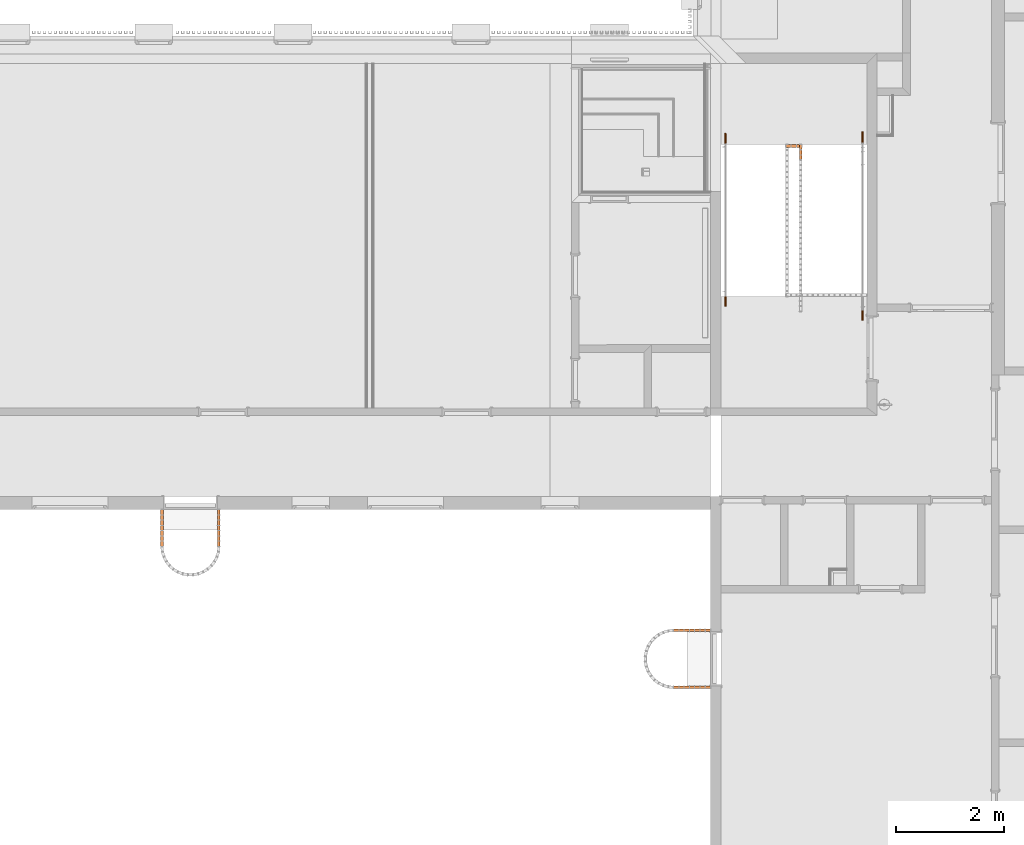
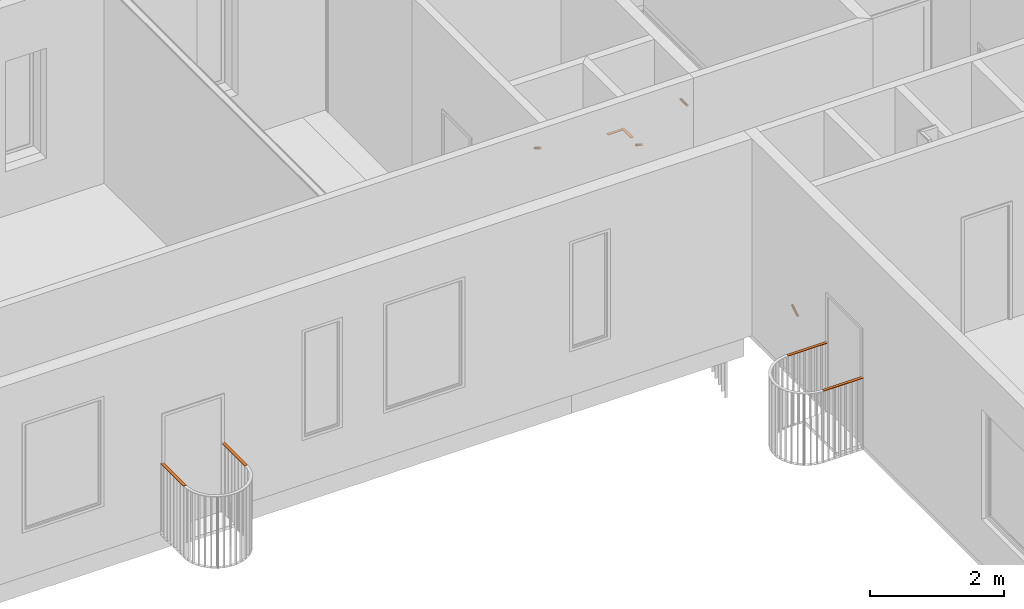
# One storey, part 98 of 100: 10 proxies, 8 elements without a shape of their own.
"""IFC2X3 building model written with IfcOpenShell, lengths in millimetres."""

import ifcopenshell
import ifcopenshell.guid

model = None  # the IFC model being written
_history = None  # IfcOwnerHistory: only IFC2X3 demands one
_inside = {}  # id of a spatial element -> (the spatial element, [elements in it])
_under = {}  # id of a project, library or spatial element -> (it, [spatial elements below it])
_declared = {}  # id of a project -> (the project, [libraries it declares])
_typed = {}  # id of a type object -> (the type object, [elements of that type])
_made_of = {}  # id of a material, layer set ... -> (it, [elements and type objects made of it])


def new_model(schema):
    """Start an empty IFC model of exactly this schema.

    Asked for "IFC4X3", IfcOpenShell would pick the latest addendum, in which some entities
    have other attributes; the version numbers below select the first issue.
    IFC2X3 requires an IfcOwnerHistory on every rooted entity: one is made here for all.
    """
    global model, _history
    if schema == "IFC4X3":
        model = ifcopenshell.file(schema_version=(4, 3, 0, 0))
    else:
        model = ifcopenshell.file(schema=schema)
    _inside.clear()
    _under.clear()
    _declared.clear()
    _typed.clear()
    _made_of.clear()
    _history = None
    if model.schema == "IFC2X3":
        org = make("IfcOrganization", Name="unknown")
        user = make(
            "IfcPersonAndOrganization",
            ThePerson=make("IfcPerson", FamilyName="unknown"),
            TheOrganization=org,
        )
        app = make(
            "IfcApplication",
            ApplicationDeveloper=org,
            Version="unknown",
            ApplicationFullName="unknown",
            ApplicationIdentifier="unknown",
        )
        _history = make(
            "IfcOwnerHistory",
            OwningUser=user,
            OwningApplication=app,
            ChangeAction="ADDED",
            CreationDate=0,
        )
    return model


def make(cls, **values):
    """One entity of the class cls with the attributes given. An attribute that is None is left unset."""
    return model.create_entity(
        cls, **{name: value for name, value in values.items() if value is not None}
    )


def entity(cls, *values):
    """Any entity or typed value of the class cls, its attributes in the order of the schema. None: left unset."""
    e = model.create_entity(cls)
    for i, value in enumerate(values):
        if value is not None:
            e[i] = value
    return e


def rooted(cls, **values):
    """An entity with a GlobalId (a new one), such as an element, a storey or a relation."""
    return make(cls, GlobalId=ifcopenshell.guid.new(), OwnerHistory=_history, **values)


def si_unit(unit_type, name, prefix=None):
    """IfcSIUnit, for example si_unit("LENGTHUNIT", "METRE", prefix="MILLI")."""
    return make("IfcSIUnit", UnitType=unit_type, Prefix=prefix, Name=name)


def converted_unit(unit_type, name, factor, base, dimensions=None, offset=None):
    """IfcConversionBasedUnit, such as the inch: factor (a typed value) times the base unit."""
    return make(
        "IfcConversionBasedUnit"
        if offset is None
        else "IfcConversionBasedUnitWithOffset",
        ConversionOffset=offset,
        Dimensions=None
        if dimensions is None
        else entity("IfcDimensionalExponents", *dimensions),
        UnitType=unit_type,
        Name=name,
        ConversionFactor=make(
            "IfcMeasureWithUnit", ValueComponent=factor, UnitComponent=base
        ),
    )


def derived_unit(unit_type, elements):
    """IfcDerivedUnit: a product of units, each with its exponent."""
    return make(
        "IfcDerivedUnit",
        Elements=[
            make("IfcDerivedUnitElement", Unit=unit, Exponent=power)
            for unit, power in elements
        ],
        UnitType=unit_type,
    )


def money_unit(currency):
    """IfcMonetaryUnit."""
    return make("IfcMonetaryUnit", Currency=currency)


def assignment(units):
    """IfcUnitAssignment: the units of a project."""
    return None if units is None else make("IfcUnitAssignment", Units=units)


def point(xyz):
    """IfcCartesianPoint."""
    return None if xyz is None else make("IfcCartesianPoint", Coordinates=xyz)


def direction(xyz):
    """IfcDirection."""
    return None if xyz is None else make("IfcDirection", DirectionRatios=xyz)


def frame(location, z_axis=None, x_axis=None):
    """IfcAxis2Placement3D, a coordinate frame: its origin and axes. An axis left out is left unset."""
    return make(
        "IfcAxis2Placement3D",
        Location=point(location),
        Axis=direction(z_axis),
        RefDirection=direction(x_axis),
    )


def origin_with_axes():
    """The frame at (0, 0, 0) with the z axis (0, 0, 1) and the x axis (1, 0, 0) written out."""
    return frame((0.0, 0.0, 0.0), z_axis=(0.0, 0.0, 1.0), x_axis=(1.0, 0.0, 0.0))


def place(relative_to, where):
    """IfcLocalPlacement: puts the frame where relative to a parent placement (None: the world)."""
    return make(
        "IfcLocalPlacement", PlacementRelTo=relative_to, RelativePlacement=where
    )


def context(
    kind, dimensions, precision=None, world=None, true_north=None, identifier=None
):
    """IfcGeometricRepresentationContext, for example the 3D "Model" context."""
    return make(
        "IfcGeometricRepresentationContext",
        ContextIdentifier=identifier,
        ContextType=kind,
        CoordinateSpaceDimension=dimensions,
        Precision=precision,
        WorldCoordinateSystem=world,
        TrueNorth=true_north,
    )


def subcontext(parent, identifier, kind, view, scale=None):
    """IfcGeometricRepresentationSubContext, for example "Body" below "Model"."""
    return make(
        "IfcGeometricRepresentationSubContext",
        ContextIdentifier=identifier,
        ContextType=kind,
        ParentContext=parent,
        TargetScale=scale,
        TargetView=view,
    )


def project(units=None, contexts=None):
    """IfcProject with its units and contexts."""
    return rooted(
        "IfcProject",
        Name="project",
        RepresentationContexts=contexts,
        UnitsInContext=assignment(units),
    )


def spatial(cls, under=None, at=None, **own):
    """A site, building, storey or space (cls), placed at a placement, below another one or the project."""
    s = rooted(cls, ObjectPlacement=at, **own)
    if under is not None:
        _under.setdefault(under.id(), (under, []))[1].append(s)
    return s


def faces_of(points, faces, orient=None, outer=None):
    """IfcFace entities. A face is a list of loops; a loop is a list of indices into points, from 0.

    orient and outer hold one flag for each loop. By default every Orientation is true, the
    first loop of a face is its IfcFaceOuterBound and the others are IfcFaceBound.
    """
    made = []
    for i, loops in enumerate(faces):
        bounds = []
        for j, loop in enumerate(loops):
            is_outer = j == 0 if outer is None else outer[i][j]
            bounds.append(
                make(
                    "IfcFaceOuterBound" if is_outer else "IfcFaceBound",
                    Bound=make("IfcPolyLoop", Polygon=[points[k] for k in loop]),
                    Orientation=True if orient is None else orient[i][j],
                )
            )
        made.append(make("IfcFace", Bounds=bounds))
    return made


def faceted_brep(points, faces, orient=None, outer=None, voids=None):
    """IfcFacetedBrep: a solid bounded by flat faces; with voids (closed shells), ...WithVoids."""
    shared = [point(p) for p in points]
    hull = make("IfcClosedShell", CfsFaces=faces_of(shared, faces, orient, outer))
    if voids is None:
        return make("IfcFacetedBrep", Outer=hull)
    return make(
        "IfcFacetedBrepWithVoids",
        Outer=hull,
        Voids=[
            make(cls, CfsFaces=faces_of(shared, fs, o, b)) for cls, fs, o, b in voids
        ],
    )


def shape(context_of_items, identifier, shape_type, items):
    """IfcShapeRepresentation: the items that make up one representation, for example the "Body"."""
    return make(
        "IfcShapeRepresentation",
        ContextOfItems=context_of_items,
        RepresentationIdentifier=identifier,
        RepresentationType=shape_type,
        Items=items,
    )


def material(Name=None, Category=None):
    """IfcMaterial."""
    return make("IfcMaterial", Name=Name, Category=Category)


def made_of(thing, what):
    """Note that an element or type object is made of a material, layer set ...; save() writes the relation."""
    if what is not None:
        _made_of.setdefault(what.id(), (what, []))[1].append(thing)
    return thing


def type_object(cls, material=None, **own):
    """A type object (cls), such as IfcWallType, which elements share."""
    return made_of(rooted(cls, **own), material)


def element(
    cls,
    number,
    at=None,
    inside=None,
    cuts=None,
    type_object=None,
    material=None,
    context=None,
    identifier="Body",
    shape_type=None,
    held_by="IfcProductDefinitionShape",
    body=None,
    shapes=None,
    **own,
):
    """One element of the class cls, such as IfcWall. Its Tag is "e" and its number.

    at: its placement. inside: the storey or other place that contains it. cuts: it is an
    opening in that element (IfcRelVoidsElement). A single representation is given by context,
    identifier, shape_type and body (its items); several are given by shapes. held_by: the class
    of the entity that holds the representations. save() writes the other relations.
    """
    e = rooted(cls, Tag="e%d" % number, ObjectPlacement=at, **own)
    if body is not None:
        shapes = [shape(context, identifier, shape_type, body)]
    if shapes is not None:
        e.Representation = make(held_by, Representations=shapes)
    if inside is not None:
        _inside.setdefault(inside.id(), (inside, []))[1].append(e)
    if cuts is not None:
        rooted(
            "IfcRelVoidsElement", RelatingBuildingElement=cuts, RelatedOpeningElement=e
        )
    if type_object is not None:
        _typed.setdefault(type_object.id(), (type_object, []))[1].append(e)
    return made_of(e, material)


def aggregate(whole, parts):
    """IfcRelAggregates: a whole, such as a stair, and the parts it consists of."""
    return rooted("IfcRelAggregates", RelatingObject=whole, RelatedObjects=parts)


def save(model, path):
    """Write the relations noted so far, then the file.

    IfcRelAggregates (storeys below a building ...), IfcRelContainedInSpatialStructure (elements
    in a storey), IfcRelDefinesByType, IfcRelAssociatesMaterial and IfcRelDeclares: one each for
    every whole, place, type object, material and project.
    """
    for whole, parts in _under.values():
        aggregate(whole, parts)
    for where, things in _inside.values():
        rooted(
            "IfcRelContainedInSpatialStructure",
            RelatedElements=things,
            RelatingStructure=where,
        )
    for kind, things in _typed.values():
        rooted("IfcRelDefinesByType", RelatedObjects=things, RelatingType=kind)
    for what, things in _made_of.values():
        rooted("IfcRelAssociatesMaterial", RelatedObjects=things, RelatingMaterial=what)
    for by, libraries in _declared.values():
        rooted("IfcRelDeclares", RelatingContext=by, RelatedDefinitions=libraries)
    model.write(path)


model = new_model("IFC2X3")

# Units and contexts
model_context = context("Model", 3, precision=0.01, world=origin_with_axes(), true_north=direction((0.0, 1.0)))
body_context = subcontext(model_context, "Body", "Model", "MODEL_VIEW")
ifc_project = project(units=[si_unit("LENGTHUNIT", "METRE", prefix="MILLI"), si_unit("AREAUNIT", "SQUARE_METRE"), si_unit("VOLUMEUNIT", "CUBIC_METRE"), converted_unit("PLANEANGLEUNIT", "DEGREE", entity("IfcPlaneAngleMeasure", 0.0174532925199), si_unit("PLANEANGLEUNIT", "RADIAN"), dimensions=[0, 0, 0, 0, 0, 0, 0]), si_unit("SOLIDANGLEUNIT", "STERADIAN"), money_unit("EUR"), converted_unit("TIMEUNIT", "Year", entity("IfcTimeMeasure", 31556926.0), si_unit("TIMEUNIT", "SECOND"), dimensions=[0, 0, 1, 0, 0, 0, 0]), si_unit("MASSUNIT", "GRAM", prefix="KILO"), si_unit("THERMODYNAMICTEMPERATUREUNIT", "DEGREE_CELSIUS"), si_unit("LUMINOUSINTENSITYUNIT", "LUMEN"), si_unit("ENERGYUNIT", "JOULE", prefix="MEGA"), derived_unit("THERMALCONDUCTANCEUNIT", [(si_unit("POWERUNIT", "WATT"), 1), (si_unit("LENGTHUNIT", "METRE"), -1), (si_unit("THERMODYNAMICTEMPERATUREUNIT", "KELVIN"), -1)]), derived_unit("SPECIFICHEATCAPACITYUNIT", [(si_unit("ENERGYUNIT", "JOULE"), 1), (si_unit("MASSUNIT", "GRAM", prefix="KILO"), -1), (si_unit("THERMODYNAMICTEMPERATUREUNIT", "KELVIN"), -1)]), derived_unit("MASSDENSITYUNIT", [(si_unit("MASSUNIT", "GRAM", prefix="KILO"), 1), (si_unit("VOLUMEUNIT", "CUBIC_METRE"), -1)])], contexts=[model_context])

# Site, building, storey
site_placement = place(None, origin_with_axes())
site = spatial("IfcSite", under=ifc_project, at=site_placement, Name="Politse- ja Piirivalveameti ning Päästeameti ühishoone", CompositionType="ELEMENT")
building_placement = place(site_placement, origin_with_axes())
building = spatial("IfcBuilding", under=site, at=building_placement, Name="Politse- ja Piirivalveameti ning Päästeameti ühishoone", CompositionType="ELEMENT")
storey_placement = place(building_placement, frame((0.0, 0.0, 3800.0), z_axis=(0.0, 0.0, 1.0), x_axis=(1.0, 0.0, 0.0)))
storey = spatial("IfcBuildingStorey", under=building, at=storey_placement, Name="Teine korrus", CompositionType="ELEMENT", Elevation=3800.0)

# Railing, proxy
railing_type = type_object("IfcRailingType", Name="Railing Type", PredefinedType="NOTDEFINED")
railing_1_placement = place(storey_placement, frame((49861.2823159, 14185.7710053, -60.5112710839), z_axis=(0.0, 0.0, 1.0), x_axis=(-1.0, 0.0, 0.0)))
railing_1 = element("IfcRailing", 1, at=railing_1_placement, inside=storey, type_object=railing_type, Name="PIIRE 11", PredefinedType="NOTDEFINED")
ifc_material = material(Name="Teras - Konstruktsioon")
building_element_proxy_type = type_object("IfcBuildingElementProxyType", Name="IfcBuildingElementProxy", PredefinedType="NOTDEFINED")
proxy_1_placement = place(railing_1_placement, frame((24.5074141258, 1766.93077231, 1273.07417596), z_axis=(0.0, 0.0, 1.0), x_axis=(-1.0, 0.0, 0.0)))
proxy_1 = element("IfcBuildingElementProxy", 2, at=proxy_1_placement, type_object=building_element_proxy_type, material=ifc_material, Name="Piirde Ülaosa - 001", context=body_context, shape_type="Brep", body=[
    faceted_brep([(-25.4925337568, 341.107435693, 26.9258240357), (-25.4925337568, 341.107435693, 16.9258240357), (-24.5074141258, -341.179628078, 16.9258240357), (-24.5074141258, -341.179628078, 26.9258240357), (24.5074141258, 341.179628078, 26.9258240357), (24.5074141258, 341.179628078, 16.9258240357), (25.4925337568, -341.107435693, 16.9258240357), (25.4925337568, -341.107435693, 26.9258240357)], [[[0, 1, 2, 3]], [[0, 4, 5, 1]], [[1, 5, 6, 2]], [[3, 2, 6, 7]], [[4, 0, 3, 7]], [[5, 4, 7, 6]]]),
])
aggregate(railing_1, [proxy_1])

railing_2_placement = place(storey_placement, frame((64283.6244846, 19499.9520832, -2100.0), z_axis=(0.0, 0.0, 1.0), x_axis=(0.0, 1.0, 0.0)))
railing_2 = element("IfcRailing", 3, at=railing_2_placement, inside=storey, type_object=railing_type, Name="TREPIPIIRE 3", PredefinedType="NOTDEFINED")
proxy_2_placement = place(railing_2_placement, frame((-25.0, 2773.06989919, 1173.07417596), z_axis=(0.0, 0.0, 1.0), x_axis=(0.0, -1.0, 0.0)))
proxy_2 = element("IfcBuildingElementProxy", 4, at=proxy_2_placement, type_object=building_element_proxy_type, material=ifc_material, Name="Piirde Ülaosa - 001", context=body_context, shape_type="Brep", body=[
    faceted_brep([(150.002673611, 25.0, 26.9258240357), (150.002673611, 25.0, 16.9258240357), (-150.002673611, 25.0, 16.9258240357), (-150.002673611, 25.0, 26.9258240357), (150.002673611, -25.0, 26.9258240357), (150.002673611, -25.0, 16.9258240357), (-150.002673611, -25.0, 16.9258240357), (-150.002673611, -25.0, 26.9258240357)], [[[0, 1, 2, 3]], [[0, 4, 5, 1]], [[1, 5, 6, 2]], [[3, 2, 6, 7]], [[4, 0, 3, 7]], [[5, 4, 7, 6]]]),
])
aggregate(railing_2, [proxy_2])

railing_3_placement = place(storey_placement, frame((61660.557259, 16622.7081554, -2100.0), z_axis=(0.0, 0.0, 1.0), x_axis=(-1.0, 0.0, 0.0)))
railing_3 = element("IfcRailing", 5, at=railing_3_placement, inside=storey, type_object=railing_type, Name="TREPIPIIRE 2", PredefinedType="NOTDEFINED")
proxy_3_placement = place(railing_3_placement, frame((25.0, -2737.24392778, 1173.07417596), z_axis=(0.0, 0.0, 1.0), x_axis=(-1.0, 0.0, 0.0)))
proxy_3 = element("IfcBuildingElementProxy", 6, at=proxy_3_placement, type_object=building_element_proxy_type, material=ifc_material, Name="Piirde Ülaosa - 001", context=body_context, shape_type="Brep", body=[
    faceted_brep([(25.0, -140.0, 26.9258240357), (25.0, -140.0, 16.9258240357), (25.0, 140.0, 16.9258240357), (25.0, 140.0, 26.9258240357), (-25.0, -140.0, 26.9258240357), (-25.0, -140.0, 16.9258240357), (-25.0, 140.0, 16.9258240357), (-25.0, 140.0, 26.9258240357)], [[[0, 1, 2, 3]], [[0, 4, 5, 1]], [[1, 5, 6, 2]], [[3, 2, 6, 7]], [[4, 0, 3, 7]], [[5, 4, 7, 6]]]),
])
aggregate(railing_3, [proxy_3])

# Railing, proxies
railing_4_placement = place(storey_placement, frame((62860.557259, 16419.9520832, -3627.27272727), z_axis=(0.0, 0.0, 1.0), x_axis=(1.0, 0.0, 0.0)))
railing_4 = element("IfcRailing", 7, at=railing_4_placement, inside=storey, type_object=railing_type, Name="PIIRE 5", PredefinedType="NOTDEFINED")
proxy_4_placement = place(railing_4_placement, origin_with_axes())
proxy_4 = element("IfcBuildingElementProxy", 8, at=proxy_4_placement, type_object=building_element_proxy_type, material=ifc_material, Name="HANDRAIL END - 001", context=body_context, shape_type="Brep", body=[
    faceted_brep([(-65.0, 10.500443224, 982.978228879), (-65.3038449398, 8.67706039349, 985.934028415), (-65.3038449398, -161.540650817, 880.929596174), (-65.0, -159.717267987, 877.973796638), (-65.3038449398, 12.3238260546, 980.022429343), (-66.2061475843, 14.0918063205, 977.15644028), (-67.6794919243, 15.7506648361, 974.467343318), (-69.6791111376, 17.2499980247, 972.036845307), (-72.1442478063, 18.5442494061, 969.9387957), (-75.0, 19.5940938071, 968.236942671), (-78.1595971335, 20.3676322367, 966.982996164), (-81.5270364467, 20.8413611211, 966.215056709), (-85.0, 21.0008864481, 965.956457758), (-88.4729635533, 20.8413611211, 966.215056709), (-91.8404028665, 20.3676322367, 966.982996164), (-95.0, 19.5940938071, 968.236942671), (-97.8557521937, 18.5442494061, 969.9387957), (-100.320888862, 17.2499980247, 972.036845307), (-102.320508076, 15.7506648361, 974.467343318), (-103.793852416, 14.0918063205, 977.15644028), (-104.69615506, 12.3238260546, 980.022429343), (-105.0, 10.500443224, 982.978228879), (-104.69615506, 8.67706039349, 985.934028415), (-103.793852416, 6.90908012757, 988.800017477), (-102.320508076, 5.25022161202, 991.489114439), (-100.320888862, 3.75088842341, 993.91961245), (-97.8557521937, 2.45663704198, 996.017662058), (-95.0, 1.40679264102, 997.719515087), (-91.8404028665, 0.633254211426, 998.973461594), (-88.4729635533, 0.159525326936, 999.741401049), (-85.0, 0.0, 1000.0), (-81.5270364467, 0.159525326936, 999.741401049), (-78.1595971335, 0.633254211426, 998.973461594), (-75.0, 1.40679264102, 997.719515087), (-72.1442478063, 2.45663704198, 996.017662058), (-69.6791111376, 3.75088842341, 993.91961245), (-67.6794919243, 5.25022161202, 991.489114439), (-66.2061475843, 6.90908012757, 988.800017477), (-66.2061475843, -163.308631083, 883.795585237), (-67.6794919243, -164.967489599, 886.484682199), (-69.6791111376, -166.466822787, 888.91518021), (-72.1442478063, -167.761074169, 891.013229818), (-75.0, -168.81091857, 892.715082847), (-78.1595971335, -169.584456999, 893.969029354), (-81.5270364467, -170.058185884, 894.736968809), (-85.0, -170.217711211, 894.99556776), (-88.4729635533, -170.058185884, 894.736968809), (-91.8404028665, -169.584456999, 893.969029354), (-95.0, -168.81091857, 892.715082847), (-97.8557521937, -167.761074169, 891.013229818), (-100.320888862, -166.466822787, 888.91518021), (-102.320508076, -164.967489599, 886.484682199), (-103.793852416, -163.308631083, 883.795585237), (-104.69615506, -161.540650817, 880.929596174), (-105.0, -159.717267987, 877.973796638), (-104.69615506, -157.893885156, 875.017997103), (-103.793852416, -156.12590489, 872.15200804), (-102.320508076, -154.467046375, 869.462911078), (-100.320888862, -152.967713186, 867.032413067), (-97.8557521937, -151.673461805, 864.934363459), (-95.0, -150.623617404, 863.23251043), (-91.8404028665, -149.850078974, 861.978563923), (-88.4729635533, -149.37635009, 861.210624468), (-85.0, -149.216824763, 860.952025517), (-81.5270364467, -149.37635009, 861.210624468), (-78.1595971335, -149.850078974, 861.978563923), (-75.0, -150.623617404, 863.23251043), (-72.1442478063, -151.673461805, 864.934363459), (-69.6791111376, -152.967713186, 867.032413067), (-67.6794919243, -154.467046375, 869.462911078), (-66.2061475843, -156.12590489, 872.15200804), (-65.3038449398, -157.893885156, 875.017997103)], [[[0, 1, 2, 3]], [[0, 4, 5, 6, 7, 8, 9, 10, 11, 12, 13, 14, 15, 16, 17, 18, 19, 20, 21, 22, 23, 24, 25, 26, 27, 28, 29, 30, 31, 32, 33, 34, 35, 36, 37, 1]], [[1, 37, 38, 2]], [[3, 2, 38, 39, 40, 41, 42, 43, 44, 45, 46, 47, 48, 49, 50, 51, 52, 53, 54, 55, 56, 57, 58, 59, 60, 61, 62, 63, 64, 65, 66, 67, 68, 69, 70, 71]], [[4, 0, 3, 71]], [[5, 4, 71, 70]], [[6, 5, 70, 69]], [[7, 6, 69, 68]], [[8, 7, 68, 67]], [[9, 8, 67, 66]], [[10, 9, 66, 65]], [[11, 10, 65, 64]], [[12, 11, 64, 63]], [[13, 12, 63, 62]], [[14, 13, 62, 61]], [[15, 14, 61, 60]], [[16, 15, 60, 59]], [[17, 16, 59, 58]], [[18, 17, 58, 57]], [[19, 18, 57, 56]], [[20, 19, 56, 55]], [[21, 20, 55, 54]], [[22, 21, 54, 53]], [[23, 22, 53, 52]], [[24, 23, 52, 51]], [[25, 24, 51, 50]], [[26, 25, 50, 49]], [[27, 26, 49, 48]], [[28, 27, 48, 47]], [[29, 28, 47, 46]], [[30, 29, 46, 45]], [[31, 30, 45, 44]], [[32, 31, 44, 43]], [[33, 32, 43, 42]], [[34, 33, 42, 41]], [[35, 34, 41, 40]], [[36, 35, 40, 39]], [[37, 36, 39, 38]]]),
])
proxy_5_placement = place(railing_4_placement, origin_with_axes())
proxy_5 = element("IfcBuildingElementProxy", 9, at=proxy_5_placement, type_object=building_element_proxy_type, material=ifc_material, Name="HANDRAIL END - 001", context=body_context, shape_type="Brep", body=[
    faceted_brep([(-105.0, 3125.09759561, 2707.27272727), (-104.69615506, 3125.09759561, 2710.74569083), (-104.69615506, 3325.09759561, 2710.74569083), (-105.0, 3325.09759561, 2707.27272727), (-104.69615506, 3125.09759561, 2703.79976372), (-103.793852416, 3125.09759561, 2700.43232441), (-102.320508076, 3125.09759561, 2697.27272727), (-100.320888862, 3125.09759561, 2694.41697508), (-97.8557521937, 3125.09759561, 2691.95183841), (-95.0, 3125.09759561, 2689.9522192), (-91.8404028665, 3125.09759561, 2688.47887486), (-88.4729635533, 3125.09759561, 2687.57657221), (-85.0, 3125.09759561, 2687.27272727), (-81.5270364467, 3125.09759561, 2687.57657221), (-78.1595971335, 3125.09759561, 2688.47887486), (-75.0, 3125.09759561, 2689.9522192), (-72.1442478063, 3125.09759561, 2691.95183841), (-69.6791111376, 3125.09759561, 2694.41697508), (-67.6794919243, 3125.09759561, 2697.27272727), (-66.2061475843, 3125.09759561, 2700.43232441), (-65.3038449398, 3125.09759561, 2703.79976372), (-65.0, 3125.09759561, 2707.27272727), (-65.3038449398, 3125.09759561, 2710.74569083), (-66.2061475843, 3125.09759561, 2714.11313014), (-67.6794919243, 3125.09759561, 2717.27272727), (-69.6791111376, 3125.09759561, 2720.12847947), (-72.1442478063, 3125.09759561, 2722.59361614), (-75.0, 3125.09759561, 2724.59323535), (-78.1595971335, 3125.09759561, 2726.06657969), (-81.5270364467, 3125.09759561, 2726.96888233), (-85.0, 3125.09759561, 2727.27272727), (-88.4729635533, 3125.09759561, 2726.96888233), (-91.8404028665, 3125.09759561, 2726.06657969), (-95.0, 3125.09759561, 2724.59323535), (-97.8557521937, 3125.09759561, 2722.59361614), (-100.320888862, 3125.09759561, 2720.12847947), (-102.320508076, 3125.09759561, 2717.27272727), (-103.793852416, 3125.09759561, 2714.11313014), (-103.793852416, 3325.09759561, 2714.11313014), (-102.320508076, 3325.09759561, 2717.27272727), (-100.320888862, 3325.09759561, 2720.12847947), (-97.8557521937, 3325.09759561, 2722.59361614), (-95.0, 3325.09759561, 2724.59323535), (-91.8404028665, 3325.09759561, 2726.06657969), (-88.4729635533, 3325.09759561, 2726.96888233), (-85.0, 3325.09759561, 2727.27272727), (-81.5270364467, 3325.09759561, 2726.96888233), (-78.1595971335, 3325.09759561, 2726.06657969), (-75.0, 3325.09759561, 2724.59323535), (-72.1442478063, 3325.09759561, 2722.59361614), (-69.6791111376, 3325.09759561, 2720.12847947), (-67.6794919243, 3325.09759561, 2717.27272727), (-66.2061475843, 3325.09759561, 2714.11313014), (-65.3038449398, 3325.09759561, 2710.74569083), (-65.0, 3325.09759561, 2707.27272727), (-65.3038449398, 3325.09759561, 2703.79976372), (-66.2061475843, 3325.09759561, 2700.43232441), (-67.6794919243, 3325.09759561, 2697.27272727), (-69.6791111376, 3325.09759561, 2694.41697508), (-72.1442478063, 3325.09759561, 2691.95183841), (-75.0, 3325.09759561, 2689.9522192), (-78.1595971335, 3325.09759561, 2688.47887486), (-81.5270364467, 3325.09759561, 2687.57657221), (-85.0, 3325.09759561, 2687.27272727), (-88.4729635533, 3325.09759561, 2687.57657221), (-91.8404028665, 3325.09759561, 2688.47887486), (-95.0, 3325.09759561, 2689.9522192), (-97.8557521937, 3325.09759561, 2691.95183841), (-100.320888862, 3325.09759561, 2694.41697508), (-102.320508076, 3325.09759561, 2697.27272727), (-103.793852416, 3325.09759561, 2700.43232441), (-104.69615506, 3325.09759561, 2703.79976372)], [[[0, 1, 2, 3]], [[0, 4, 5, 6, 7, 8, 9, 10, 11, 12, 13, 14, 15, 16, 17, 18, 19, 20, 21, 22, 23, 24, 25, 26, 27, 28, 29, 30, 31, 32, 33, 34, 35, 36, 37, 1]], [[1, 37, 38, 2]], [[3, 2, 38, 39, 40, 41, 42, 43, 44, 45, 46, 47, 48, 49, 50, 51, 52, 53, 54, 55, 56, 57, 58, 59, 60, 61, 62, 63, 64, 65, 66, 67, 68, 69, 70, 71]], [[4, 0, 3, 71]], [[5, 4, 71, 70]], [[6, 5, 70, 69]], [[7, 6, 69, 68]], [[8, 7, 68, 67]], [[9, 8, 67, 66]], [[10, 9, 66, 65]], [[11, 10, 65, 64]], [[12, 11, 64, 63]], [[13, 12, 63, 62]], [[14, 13, 62, 61]], [[15, 14, 61, 60]], [[16, 15, 60, 59]], [[17, 16, 59, 58]], [[18, 17, 58, 57]], [[19, 18, 57, 56]], [[20, 19, 56, 55]], [[21, 20, 55, 54]], [[22, 21, 54, 53]], [[23, 22, 53, 52]], [[24, 23, 52, 51]], [[25, 24, 51, 50]], [[26, 25, 50, 49]], [[27, 26, 49, 48]], [[28, 27, 48, 47]], [[29, 28, 47, 46]], [[30, 29, 46, 45]], [[31, 30, 45, 44]], [[32, 31, 44, 43]], [[33, 32, 43, 42]], [[34, 33, 42, 41]], [[35, 34, 41, 40]], [[36, 35, 40, 39]], [[37, 36, 39, 38]]]),
])
aggregate(railing_4, [proxy_4, proxy_5])

# Railing, proxy
railing_5_placement = place(storey_placement, frame((50863.2525551, 14185.7710053, -60.5112732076), z_axis=(0.0, 0.0, 1.0), x_axis=(1.0, 0.0, 0.0)))
railing_5 = element("IfcRailing", 10, at=railing_5_placement, inside=storey, type_object=railing_type, Name="PIIRE 12", PredefinedType="NOTDEFINED")
proxy_6_placement = place(railing_5_placement, frame((24.5074141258, -1766.93077231, 1273.07417596), z_axis=(0.0, 0.0, 1.0), x_axis=(1.0, 0.0, 0.0)))
proxy_6 = element("IfcBuildingElementProxy", 11, at=proxy_6_placement, type_object=building_element_proxy_type, material=ifc_material, Name="Piirde Ülaosa - 001", context=body_context, shape_type="Brep", body=[
    faceted_brep([(-24.5074141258, 341.179628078, 26.9258240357), (-24.5074141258, 341.179628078, 16.9258240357), (-25.4925337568, -341.107435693, 16.9258240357), (-25.4925337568, -341.107435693, 26.9258240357), (25.4925337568, 341.107435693, 26.9258240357), (25.4925337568, 341.107435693, 16.9258240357), (24.5074141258, -341.179628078, 16.9258240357), (24.5074141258, -341.179628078, 26.9258240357)], [[[0, 1, 2, 3]], [[0, 4, 5, 1]], [[1, 5, 6, 2]], [[3, 2, 6, 7]], [[4, 0, 3, 7]], [[5, 4, 7, 6]]]),
])
aggregate(railing_5, [proxy_6])

railing_6_placement = place(storey_placement, frame((61396.303056, 10503.6272553, -60.5112710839), z_axis=(0.0, 0.0, 1.0), x_axis=(0.0, 1.0, 0.0)))
railing_6 = element("IfcRailing", 12, at=railing_6_placement, inside=storey, type_object=railing_type, Name="PIIRE 11", PredefinedType="NOTDEFINED")
proxy_7_placement = place(railing_6_placement, frame((24.5074141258, 1766.93077231, 1273.07417596), z_axis=(0.0, 0.0, 1.0), x_axis=(0.0, -1.0, 0.0)))
proxy_7 = element("IfcBuildingElementProxy", 13, at=proxy_7_placement, type_object=building_element_proxy_type, material=ifc_material, Name="Piirde Ülaosa - 001", context=body_context, shape_type="Brep", body=[
    faceted_brep([(341.107435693, 25.4925337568, 26.9258240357), (341.107435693, 25.4925337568, 16.9258240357), (-341.179628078, 24.5074141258, 16.9258240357), (-341.179628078, 24.5074141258, 26.9258240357), (341.179628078, -24.5074141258, 26.9258240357), (341.179628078, -24.5074141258, 16.9258240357), (-341.107435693, -25.4925337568, 16.9258240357), (-341.107435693, -25.4925337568, 26.9258240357)], [[[0, 1, 2, 3]], [[0, 4, 5, 1]], [[1, 5, 6, 2]], [[3, 2, 6, 7]], [[4, 0, 3, 7]], [[5, 4, 7, 6]]]),
])
aggregate(railing_6, [proxy_7])

railing_7_placement = place(storey_placement, frame((61396.303056, 9501.65701605, -60.5112732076), z_axis=(0.0, 0.0, 1.0), x_axis=(0.0, 1.0, 0.0)))
railing_7 = element("IfcRailing", 14, at=railing_7_placement, inside=storey, type_object=railing_type, Name="PIIRE 12", PredefinedType="NOTDEFINED")
proxy_8_placement = place(railing_7_placement, frame((-24.5074141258, 1766.93077231, 1273.07417596), z_axis=(0.0, 0.0, 1.0), x_axis=(0.0, -1.0, 0.0)))
proxy_8 = element("IfcBuildingElementProxy", 15, at=proxy_8_placement, type_object=building_element_proxy_type, material=ifc_material, Name="Piirde Ülaosa - 001", context=body_context, shape_type="Brep", body=[
    faceted_brep([(341.179628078, 24.5074141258, 26.9258240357), (341.179628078, 24.5074141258, 16.9258240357), (-341.107435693, 25.4925337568, 16.9258240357), (-341.107435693, 25.4925337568, 26.9258240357), (341.107435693, -25.4925337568, 26.9258240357), (341.107435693, -25.4925337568, 16.9258240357), (-341.179628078, -24.5074141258, 16.9258240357), (-341.179628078, -24.5074141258, 26.9258240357)], [[[0, 1, 2, 3]], [[0, 4, 5, 1]], [[1, 5, 6, 2]], [[3, 2, 6, 7]], [[4, 0, 3, 7]], [[5, 4, 7, 6]]]),
])
aggregate(railing_7, [proxy_8])

# Railing, proxies
railing_8_placement = place(storey_placement, frame((62860.557259, 16419.9520832, -1778.18599726), z_axis=(0.0, 0.0, 1.0), x_axis=(1.0, 0.0, 0.0)))
railing_8 = element("IfcRailing", 16, at=railing_8_placement, inside=storey, type_object=railing_type, Name="PIIRE 5", PredefinedType="NOTDEFINED")
proxy_9_placement = place(railing_8_placement, origin_with_axes())
proxy_9 = element("IfcBuildingElementProxy", 17, at=proxy_9_placement, type_object=building_element_proxy_type, material=ifc_material, Name="HANDRAIL END - 001", context=body_context, shape_type="Brep", body=[
    faceted_brep([(-2635.00534722, 3114.49761681, 983.04003392), (-2634.70150228, 3116.33828381, 985.985101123), (-2634.70150228, 3285.93794461, 879.985313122), (-2635.00534722, 3284.09727761, 877.040245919), (-2634.70150228, 3112.65694981, 980.094966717), (-2633.79919964, 3110.87221054, 977.23938389), (-2632.3258553, 3109.19762741, 974.56005088), (-2630.32623608, 3107.68408177, 972.138377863), (-2627.86109942, 3106.37756195, 970.047946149), (-2625.00534722, 3105.31776589, 968.352272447), (-2621.84575009, 3104.53689495, 967.102878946), (-2618.47831078, 3104.05867551, 966.337727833), (-2615.00534722, 3103.89763801, 966.08006784), (-2611.53238367, 3104.05867551, 966.337727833), (-2608.16494436, 3104.53689495, 967.102878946), (-2605.00534722, 3105.31776589, 968.352272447), (-2602.14959503, 3106.37756195, 970.047946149), (-2599.68445836, 3107.68408177, 972.138377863), (-2597.68483915, 3109.19762741, 974.56005088), (-2596.21149481, 3110.87221054, 977.23938389), (-2595.30919216, 3112.65694981, 980.094966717), (-2595.00534722, 3114.49761681, 983.04003392), (-2595.30919216, 3116.33828381, 985.985101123), (-2596.21149481, 3118.12302308, 988.840683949), (-2597.68483915, 3119.79760621, 991.52001696), (-2599.68445836, 3121.31115185, 993.941689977), (-2602.14959503, 3122.61767167, 996.032121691), (-2605.00534722, 3123.67746773, 997.727795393), (-2608.16494436, 3124.45833867, 998.977188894), (-2611.53238367, 3124.93655811, 999.742340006), (-2615.00534722, 3125.09759561, 1000.0), (-2618.47831078, 3124.93655811, 999.742340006), (-2621.84575009, 3124.45833867, 998.977188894), (-2625.00534722, 3123.67746773, 997.727795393), (-2627.86109942, 3122.61767167, 996.032121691), (-2630.32623608, 3121.31115185, 993.941689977), (-2632.3258553, 3119.79760621, 991.52001696), (-2633.79919964, 3118.12302308, 988.840683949), (-2633.79919964, 3287.72268388, 882.840895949), (-2632.3258553, 3289.39726701, 885.520228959), (-2630.32623608, 3290.91081265, 887.941901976), (-2627.86109942, 3292.21733247, 890.03233369), (-2625.00534722, 3293.27712853, 891.728007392), (-2621.84575009, 3294.05799947, 892.977400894), (-2618.47831078, 3294.53621892, 893.742552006), (-2615.00534722, 3294.69725641, 894.000211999), (-2611.53238367, 3294.53621892, 893.742552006), (-2608.16494436, 3294.05799947, 892.977400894), (-2605.00534722, 3293.27712853, 891.728007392), (-2602.14959503, 3292.21733247, 890.03233369), (-2599.68445836, 3290.91081265, 887.941901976), (-2597.68483915, 3289.39726701, 885.520228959), (-2596.21149481, 3287.72268388, 882.840895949), (-2595.30919216, 3285.93794461, 879.985313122), (-2595.00534722, 3284.09727761, 877.040245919), (-2595.30919216, 3282.25661061, 874.095178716), (-2596.21149481, 3280.47187134, 871.23959589), (-2597.68483915, 3278.79728821, 868.560262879), (-2599.68445836, 3277.28374258, 866.138589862), (-2602.14959503, 3275.97722275, 864.048158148), (-2605.00534722, 3274.91742669, 862.352484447), (-2608.16494436, 3274.13655575, 861.103090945), (-2611.53238367, 3273.65833631, 860.337939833), (-2615.00534722, 3273.49729881, 860.080279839), (-2618.47831078, 3273.65833631, 860.337939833), (-2621.84575009, 3274.13655575, 861.103090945), (-2625.00534722, 3274.91742669, 862.352484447), (-2627.86109942, 3275.97722275, 864.048158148), (-2630.32623608, 3277.28374258, 866.138589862), (-2632.3258553, 3278.79728821, 868.560262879), (-2633.79919964, 3280.47187134, 871.23959589), (-2634.70150228, 3282.25661061, 874.095178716)], [[[0, 1, 2, 3]], [[0, 4, 5, 6, 7, 8, 9, 10, 11, 12, 13, 14, 15, 16, 17, 18, 19, 20, 21, 22, 23, 24, 25, 26, 27, 28, 29, 30, 31, 32, 33, 34, 35, 36, 37, 1]], [[1, 37, 38, 2]], [[3, 2, 38, 39, 40, 41, 42, 43, 44, 45, 46, 47, 48, 49, 50, 51, 52, 53, 54, 55, 56, 57, 58, 59, 60, 61, 62, 63, 64, 65, 66, 67, 68, 69, 70, 71]], [[4, 0, 3, 71]], [[5, 4, 71, 70]], [[6, 5, 70, 69]], [[7, 6, 69, 68]], [[8, 7, 68, 67]], [[9, 8, 67, 66]], [[10, 9, 66, 65]], [[11, 10, 65, 64]], [[12, 11, 64, 63]], [[13, 12, 63, 62]], [[14, 13, 62, 61]], [[15, 14, 61, 60]], [[16, 15, 60, 59]], [[17, 16, 59, 58]], [[18, 17, 58, 57]], [[19, 18, 57, 56]], [[20, 19, 56, 55]], [[21, 20, 55, 54]], [[22, 21, 54, 53]], [[23, 22, 53, 52]], [[24, 23, 52, 51]], [[25, 24, 51, 50]], [[26, 25, 50, 49]], [[27, 26, 49, 48]], [[28, 27, 48, 47]], [[29, 28, 47, 46]], [[30, 29, 46, 45]], [[31, 30, 45, 44]], [[32, 31, 44, 43]], [[33, 32, 43, 42]], [[34, 33, 42, 41]], [[35, 34, 41, 40]], [[36, 35, 40, 39]], [[37, 36, 39, 38]]]),
])
proxy_10_placement = place(railing_8_placement, origin_with_axes())
proxy_10 = element("IfcBuildingElementProxy", 18, at=proxy_10_placement, type_object=building_element_proxy_type, material=ifc_material, Name="HANDRAIL END - 001", context=body_context, shape_type="Brep", body=[
    faceted_brep([(-2595.00534722, 269.4000212, 2761.22603118), (-2595.30919216, 271.240688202, 2764.17109838), (-2595.30919216, 101.641027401, 2870.17088638), (-2595.00534722, 99.8003603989, 2867.22581918), (-2595.30919216, 267.559354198, 2758.28096397), (-2596.21149481, 265.774614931, 2755.42538115), (-2597.68483915, 264.1000318, 2752.74604814), (-2599.68445836, 262.586486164, 2750.32437512), (-2602.14959503, 261.279966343, 2748.23394341), (-2605.00534722, 260.22017028, 2746.5382697), (-2608.16494436, 259.439299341, 2745.2888762), (-2611.53238367, 258.961079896, 2744.52372509), (-2615.00534722, 258.8000424, 2744.2660651), (-2618.47831078, 258.961079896, 2744.52372509), (-2621.84575009, 259.439299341, 2745.2888762), (-2625.00534722, 260.22017028, 2746.5382697), (-2627.86109942, 261.279966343, 2748.23394341), (-2630.32623608, 262.586486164, 2750.32437512), (-2632.3258553, 264.1000318, 2752.74604814), (-2633.79919964, 265.774614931, 2755.42538115), (-2634.70150228, 267.559354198, 2758.28096397), (-2635.00534722, 269.4000212, 2761.22603118), (-2634.70150228, 271.240688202, 2764.17109838), (-2633.79919964, 273.025427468, 2767.02668121), (-2632.3258553, 274.7000106, 2769.70601422), (-2630.32623608, 276.213556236, 2772.12768723), (-2627.86109942, 277.520076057, 2774.21811895), (-2625.00534722, 278.57987212, 2775.91379265), (-2621.84575009, 279.360743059, 2777.16318615), (-2618.47831078, 279.838962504, 2777.92833726), (-2615.00534722, 280.0, 2778.18599726), (-2611.53238367, 279.838962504, 2777.92833726), (-2608.16494436, 279.360743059, 2777.16318615), (-2605.00534722, 278.57987212, 2775.91379265), (-2602.14959503, 277.520076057, 2774.21811895), (-2599.68445836, 276.213556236, 2772.12768723), (-2597.68483915, 274.7000106, 2769.70601422), (-2596.21149481, 273.025427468, 2767.02668121), (-2596.21149481, 103.425766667, 2873.02646921), (-2597.68483915, 105.100349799, 2875.70580222), (-2599.68445836, 106.613895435, 2878.12747523), (-2602.14959503, 107.920415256, 2880.21790695), (-2605.00534722, 108.980211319, 2881.91358065), (-2608.16494436, 109.761082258, 2883.16297415), (-2611.53238367, 110.239301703, 2883.92812526), (-2615.00534722, 110.400339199, 2884.18578526), (-2618.47831078, 110.239301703, 2883.92812526), (-2621.84575009, 109.761082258, 2883.16297415), (-2625.00534722, 108.980211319, 2881.91358065), (-2627.86109942, 107.920415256, 2880.21790695), (-2630.32623608, 106.613895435, 2878.12747523), (-2632.3258553, 105.100349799, 2875.70580222), (-2633.79919964, 103.425766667, 2873.02646921), (-2634.70150228, 101.641027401, 2870.17088638), (-2635.00534722, 99.8003603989, 2867.22581918), (-2634.70150228, 97.959693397, 2864.28075197), (-2633.79919964, 96.1749541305, 2861.42516915), (-2632.3258553, 94.5003709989, 2858.74583614), (-2630.32623608, 92.9868253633, 2856.32416312), (-2627.86109942, 91.680305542, 2854.23373141), (-2625.00534722, 90.6205094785, 2852.5380577), (-2621.84575009, 89.83963854, 2851.2886642), (-2618.47831078, 89.3614190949, 2850.52351309), (-2615.00534722, 89.2003815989, 2850.2658531), (-2611.53238367, 89.3614190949, 2850.52351309), (-2608.16494436, 89.83963854, 2851.2886642), (-2605.00534722, 90.6205094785, 2852.5380577), (-2602.14959503, 91.680305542, 2854.23373141), (-2599.68445836, 92.9868253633, 2856.32416312), (-2597.68483915, 94.5003709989, 2858.74583614), (-2596.21149481, 96.1749541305, 2861.42516915), (-2595.30919216, 97.959693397, 2864.28075197)], [[[0, 1, 2, 3]], [[0, 4, 5, 6, 7, 8, 9, 10, 11, 12, 13, 14, 15, 16, 17, 18, 19, 20, 21, 22, 23, 24, 25, 26, 27, 28, 29, 30, 31, 32, 33, 34, 35, 36, 37, 1]], [[1, 37, 38, 2]], [[3, 2, 38, 39, 40, 41, 42, 43, 44, 45, 46, 47, 48, 49, 50, 51, 52, 53, 54, 55, 56, 57, 58, 59, 60, 61, 62, 63, 64, 65, 66, 67, 68, 69, 70, 71]], [[4, 0, 3, 71]], [[5, 4, 71, 70]], [[6, 5, 70, 69]], [[7, 6, 69, 68]], [[8, 7, 68, 67]], [[9, 8, 67, 66]], [[10, 9, 66, 65]], [[11, 10, 65, 64]], [[12, 11, 64, 63]], [[13, 12, 63, 62]], [[14, 13, 62, 61]], [[15, 14, 61, 60]], [[16, 15, 60, 59]], [[17, 16, 59, 58]], [[18, 17, 58, 57]], [[19, 18, 57, 56]], [[20, 19, 56, 55]], [[21, 20, 55, 54]], [[22, 21, 54, 53]], [[23, 22, 53, 52]], [[24, 23, 52, 51]], [[25, 24, 51, 50]], [[26, 25, 50, 49]], [[27, 26, 49, 48]], [[28, 27, 48, 47]], [[29, 28, 47, 46]], [[30, 29, 46, 45]], [[31, 30, 45, 44]], [[32, 31, 44, 43]], [[33, 32, 43, 42]], [[34, 33, 42, 41]], [[35, 34, 41, 40]], [[36, 35, 40, 39]], [[37, 36, 39, 38]]]),
])
aggregate(railing_8, [proxy_9, proxy_10])

save(model, "model.ifc")
